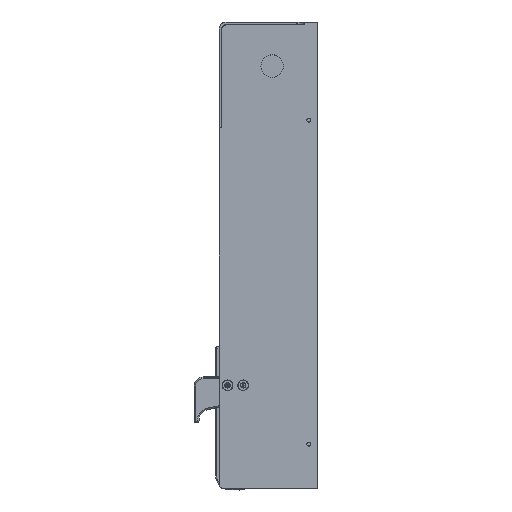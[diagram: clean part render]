
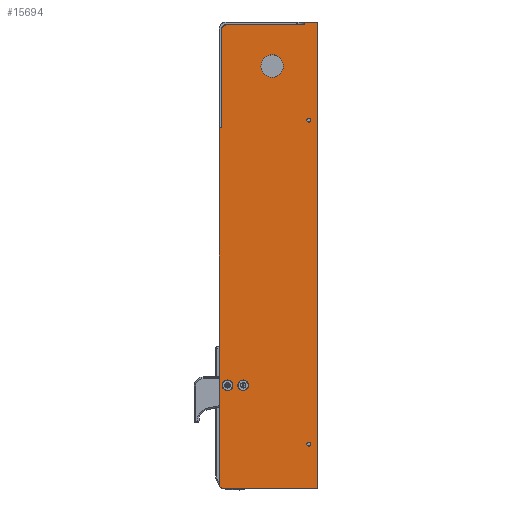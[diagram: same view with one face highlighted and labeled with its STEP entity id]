
A CAD part, left-side view. The second image highlights one B-rep face of the part: STEP entity #15694.
In plain terms, the highlighted planar face has unit normal (-1, 0, -0.001).
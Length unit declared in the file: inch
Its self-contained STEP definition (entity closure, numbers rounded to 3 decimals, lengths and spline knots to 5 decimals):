
#14845=CARTESIAN_POINT('',(-7.33872,-10.14572,-1.47836));
#14846=VERTEX_POINT('',#14845);
#14853=CARTESIAN_POINT('',(-7.33872,-10.20871,-1.47836));
#14854=VERTEX_POINT('',#14853);
#14855=CARTESIAN_POINT('',(-7.33872,-10.20871,-1.47836));
#14856=DIRECTION('',(0.,1.0,0.));
#14857=VECTOR('',#14856,0.06299);
#14858=LINE('',#14855,#14857);
#14859=EDGE_CURVE('',#14854,#14846,#14858,.T.);
#15183=CARTESIAN_POINT('',(-7.3338,-10.14572,-11.46161));
#15184=VERTEX_POINT('',#15183);
#15191=CARTESIAN_POINT('',(-7.33872,-10.14572,-1.47836));
#15192=DIRECTION('',(0.,0.,-1.));
#15193=VECTOR('',#15192,9.98324);
#15194=LINE('',#15191,#15193);
#15195=EDGE_CURVE('',#14846,#15184,#15194,.T.);
#15223=CARTESIAN_POINT('',(-7.33525,-10.80872,-8.52361));
#15224=VERTEX_POINT('',#15223);
#15225=CARTESIAN_POINT('',(-7.33517,-10.80872,-8.67361));
#15226=DIRECTION('',(1.,0.,0.));
#15227=DIRECTION('',(0.,0.,1.));
#15228=AXIS2_PLACEMENT_3D('',#15225,#15226,#15227);
#15229=CIRCLE('',#15228,0.15);
#15230=EDGE_CURVE('',#15224,#15224,#15229,.T.);
#15271=CARTESIAN_POINT('',(-7.33525,-10.37372,-8.52361));
#15272=VERTEX_POINT('',#15271);
#15273=CARTESIAN_POINT('',(-7.33517,-10.37372,-8.67361));
#15274=DIRECTION('',(1.,0.,0.));
#15275=DIRECTION('',(0.,0.,1.));
#15276=AXIS2_PLACEMENT_3D('',#15273,#15274,#15275);
#15277=CIRCLE('',#15276,0.15);
#15278=EDGE_CURVE('',#15272,#15272,#15277,.T.);
#15572=CARTESIAN_POINT('',(-7.33375,-10.23972,-11.55561));
#15573=VERTEX_POINT('',#15572);
#15580=CARTESIAN_POINT('',(-7.3338,-10.23972,-11.46161));
#15581=DIRECTION('',(1.,0.,0.));
#15582=DIRECTION('',(0.,0.707,-0.707));
#15583=AXIS2_PLACEMENT_3D('',#15580,#15581,#15582);
#15584=CIRCLE('',#15583,0.094);
#15585=EDGE_CURVE('',#15573,#15184,#15584,.T.);
#15591=CARTESIAN_POINT('',(-7.33696,-11.54474,-5.04061));
#15592=DIRECTION('',(1.,0.,0.));
#15593=DIRECTION('',(0.,0.,-1.));
#15594=AXIS2_PLACEMENT_3D('',#15591,#15592,#15593);
#15595=PLANE('',#15594);
#15596=ORIENTED_EDGE('',*,*,#15585,.F.);
#15597=CARTESIAN_POINT('',(-7.33375,-12.90044,-11.55561));
#15598=VERTEX_POINT('',#15597);
#15599=CARTESIAN_POINT('',(-7.33375,-10.23972,-11.55561));
#15600=DIRECTION('',(0.,-1.0,0.));
#15601=VECTOR('',#15600,2.66072);
#15602=LINE('',#15599,#15601);
#15603=EDGE_CURVE('',#15573,#15598,#15602,.T.);
#15604=ORIENTED_EDGE('',*,*,#15603,.T.);
#15605=CARTESIAN_POINT('',(-7.34017,-12.90044,1.47439));
#15606=VERTEX_POINT('',#15605);
#15607=CARTESIAN_POINT('',(-7.33375,-12.90044,-11.55561));
#15608=DIRECTION('',(0.,0.,1.));
#15609=VECTOR('',#15608,13.03);
#15610=LINE('',#15607,#15609);
#15611=EDGE_CURVE('',#15598,#15606,#15610,.T.);
#15612=ORIENTED_EDGE('',*,*,#15611,.T.);
#15613=CARTESIAN_POINT('',(-7.34017,-12.52958,1.47439));
#15614=VERTEX_POINT('',#15613);
#15615=CARTESIAN_POINT('',(-7.34017,-12.90044,1.47439));
#15616=DIRECTION('',(0.,1.0,0.));
#15617=VECTOR('',#15616,0.37087);
#15618=LINE('',#15615,#15617);
#15619=EDGE_CURVE('',#15606,#15614,#15618,.T.);
#15620=ORIENTED_EDGE('',*,*,#15619,.T.);
#15621=CARTESIAN_POINT('',(-7.34014,-12.52958,1.4114));
#15622=VERTEX_POINT('',#15621);
#15623=CARTESIAN_POINT('',(-7.34017,-12.52958,1.47439));
#15624=DIRECTION('',(0.,0.,-1.));
#15625=VECTOR('',#15624,0.06299);
#15626=LINE('',#15623,#15625);
#15627=EDGE_CURVE('',#15614,#15622,#15626,.T.);
#15628=ORIENTED_EDGE('',*,*,#15627,.T.);
#15629=CARTESIAN_POINT('',(-7.34014,-10.33371,1.4114));
#15630=VERTEX_POINT('',#15629);
#15631=CARTESIAN_POINT('',(-7.34014,-12.52958,1.4114));
#15632=DIRECTION('',(0.,1.0,0.));
#15633=VECTOR('',#15632,2.19587);
#15634=LINE('',#15631,#15633);
#15635=EDGE_CURVE('',#15622,#15630,#15634,.T.);
#15636=ORIENTED_EDGE('',*,*,#15635,.T.);
#15637=CARTESIAN_POINT('',(-7.34008,-10.20871,1.2864));
#15638=VERTEX_POINT('',#15637);
#15639=CARTESIAN_POINT('',(-7.34008,-10.20871,1.2864));
#15640=DIRECTION('',(0.,-0.707,0.707));
#15641=VECTOR('',#15640,0.17678);
#15642=LINE('',#15639,#15641);
#15643=EDGE_CURVE('',#15638,#15630,#15642,.T.);
#15644=ORIENTED_EDGE('',*,*,#15643,.F.);
#15645=CARTESIAN_POINT('',(-7.34008,-10.20871,1.2864));
#15646=DIRECTION('',(0.,0.,-1.));
#15647=VECTOR('',#15646,2.76476);
#15648=LINE('',#15645,#15647);
#15649=EDGE_CURVE('',#15638,#14854,#15648,.T.);
#15650=ORIENTED_EDGE('',*,*,#15649,.T.);
#15651=ORIENTED_EDGE('',*,*,#14859,.T.);
#15652=ORIENTED_EDGE('',*,*,#15195,.T.);
#15653=EDGE_LOOP('',(#15596,#15604,#15612,#15620,#15628,#15636,#15644,#15650,#15651,#15652));
#15654=FACE_OUTER_BOUND('',#15653,.T.);
#15655=ORIENTED_EDGE('',*,*,#15230,.T.);
#15656=EDGE_LOOP('',(#15655));
#15657=FACE_BOUND('',#15656,.T.);
#15658=ORIENTED_EDGE('',*,*,#15278,.T.);
#15659=EDGE_LOOP('',(#15658));
#15660=FACE_BOUND('',#15659,.T.);
#15661=CARTESIAN_POINT('',(-7.33973,-11.62072,0.56687));
#15662=VERTEX_POINT('',#15661);
#15663=CARTESIAN_POINT('',(-7.33957,-11.62072,0.25187));
#15664=DIRECTION('',(1.,0.,0.));
#15665=DIRECTION('',(0.,0.,1.));
#15666=AXIS2_PLACEMENT_3D('',#15663,#15664,#15665);
#15667=CIRCLE('',#15666,0.315);
#15668=EDGE_CURVE('',#15662,#15662,#15667,.T.);
#15669=ORIENTED_EDGE('',*,*,#15668,.T.);
#15670=EDGE_LOOP('',(#15669));
#15671=FACE_BOUND('',#15670,.T.);
#15672=CARTESIAN_POINT('',(-7.33885,-12.643,-1.20733));
#15673=VERTEX_POINT('',#15672);
#15674=CARTESIAN_POINT('',(-7.33883,-12.643,-1.26183));
#15675=DIRECTION('',(1.,0.,0.));
#15676=DIRECTION('',(0.,0.,-1.));
#15677=AXIS2_PLACEMENT_3D('',#15674,#15675,#15676);
#15678=CIRCLE('',#15677,0.0545);
#15679=EDGE_CURVE('',#15673,#15673,#15678,.T.);
#15680=ORIENTED_EDGE('',*,*,#15679,.T.);
#15681=EDGE_LOOP('',(#15680));
#15682=FACE_BOUND('',#15681,.T.);
#15683=CARTESIAN_POINT('',(-7.33439,-12.643,-10.26489));
#15684=VERTEX_POINT('',#15683);
#15685=CARTESIAN_POINT('',(-7.33436,-12.643,-10.31939));
#15686=DIRECTION('',(1.,0.,0.));
#15687=DIRECTION('',(0.,0.,-1.));
#15688=AXIS2_PLACEMENT_3D('',#15685,#15686,#15687);
#15689=CIRCLE('',#15688,0.0545);
#15690=EDGE_CURVE('',#15684,#15684,#15689,.T.);
#15691=ORIENTED_EDGE('',*,*,#15690,.T.);
#15692=EDGE_LOOP('',(#15691));
#15693=FACE_BOUND('',#15692,.T.);
#15694=ADVANCED_FACE('',(#15654,#15657,#15660,#15671,#15682,#15693),#15595,.F.);
